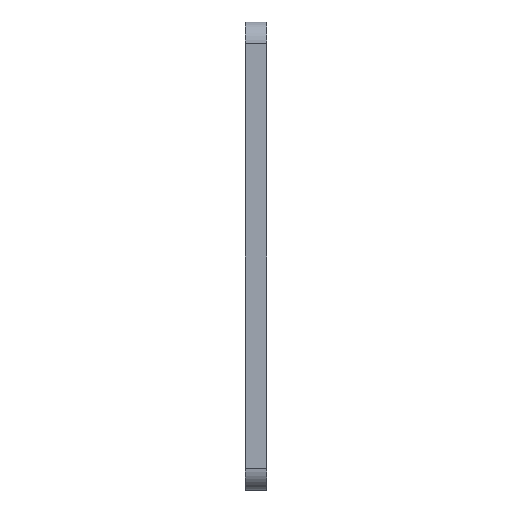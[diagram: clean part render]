
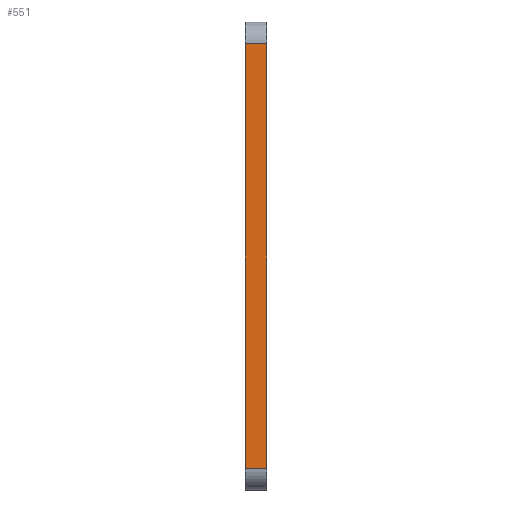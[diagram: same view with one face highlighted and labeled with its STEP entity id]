
A CAD part, left-side view. The second image highlights one B-rep face of the part: STEP entity #551.
In plain terms, the highlighted planar face has unit normal (-1, 0, 0).
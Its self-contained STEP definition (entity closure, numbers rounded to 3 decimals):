
#124 = EDGE_LOOP ( 'NONE', ( #1353, #326, #1065, #508 ) ) ;
#164 = VERTEX_POINT ( 'NONE', #578 ) ;
#185 = CARTESIAN_POINT ( 'NONE',  ( -32.5, 1.5, 32.5 ) ) ;
#202 = DIRECTION ( 'NONE',  ( 1., 0., 0. ) ) ;
#210 = LINE ( 'NONE', #1841, #1382 ) ;
#254 = AXIS2_PLACEMENT_3D ( 'NONE', #1643, #202, #1795 ) ;
#255 = CARTESIAN_POINT ( 'NONE',  ( -32.5, 1.5, 29.5 ) ) ;
#326 = ORIENTED_EDGE ( 'NONE', *, *, #1517, .T. ) ;
#460 = LINE ( 'NONE', #1366, #654 ) ;
#508 = ORIENTED_EDGE ( 'NONE', *, *, #705, .T. ) ;
#536 = VERTEX_POINT ( 'NONE', #804 ) ;
#551 = ADVANCED_FACE ( 'NONE', ( #1092 ), #915, .F. ) ;
#578 = CARTESIAN_POINT ( 'NONE',  ( -32.5, 1.5, -29.5 ) ) ;
#654 = VECTOR ( 'NONE', #1801, 1000. ) ;
#689 = DIRECTION ( 'NONE',  ( 0., 1., 0. ) ) ;
#705 = EDGE_CURVE ( 'NONE', #164, #536, #210, .T. ) ;
#804 = CARTESIAN_POINT ( 'NONE',  ( -32.5, -1.5, -29.5 ) ) ;
#915 = PLANE ( 'NONE',  #254 ) ;
#949 = VECTOR ( 'NONE', #1198, 1000. ) ;
#974 = LINE ( 'NONE', #255, #1621 ) ;
#975 = DIRECTION ( 'NONE',  ( 0., -1., 0. ) ) ;
#1065 = ORIENTED_EDGE ( 'NONE', *, *, #1773, .F. ) ;
#1067 = LINE ( 'NONE', #185, #949 ) ;
#1092 = FACE_OUTER_BOUND ( 'NONE', #124, .T. ) ;
#1198 = DIRECTION ( 'NONE',  ( 0., 0., 1. ) ) ;
#1353 = ORIENTED_EDGE ( 'NONE', *, *, #1837, .T. ) ;
#1366 = CARTESIAN_POINT ( 'NONE',  ( -32.5, -1.5, 32.5 ) ) ;
#1382 = VECTOR ( 'NONE', #975, 1000. ) ;
#1421 = VERTEX_POINT ( 'NONE', #1522 ) ;
#1435 = VERTEX_POINT ( 'NONE', #1821 ) ;
#1517 = EDGE_CURVE ( 'NONE', #1435, #1421, #974, .T. ) ;
#1522 = CARTESIAN_POINT ( 'NONE',  ( -32.5, 1.5, 29.5 ) ) ;
#1621 = VECTOR ( 'NONE', #689, 1000. ) ;
#1643 = CARTESIAN_POINT ( 'NONE',  ( -32.5, 1.5, 32.5 ) ) ;
#1773 = EDGE_CURVE ( 'NONE', #164, #1421, #1067, .T. ) ;
#1795 = DIRECTION ( 'NONE',  ( 0., 0., -1. ) ) ;
#1801 = DIRECTION ( 'NONE',  ( 0., 0., 1. ) ) ;
#1821 = CARTESIAN_POINT ( 'NONE',  ( -32.5, -1.5, 29.5 ) ) ;
#1837 = EDGE_CURVE ( 'NONE', #536, #1435, #460, .T. ) ;
#1841 = CARTESIAN_POINT ( 'NONE',  ( -32.5, 1.5, -29.5 ) ) ;
